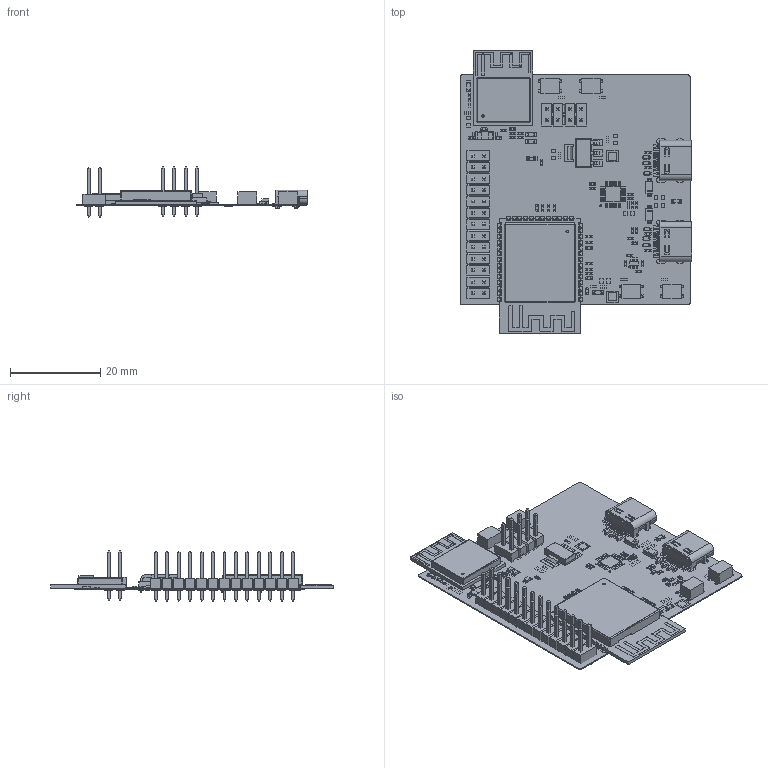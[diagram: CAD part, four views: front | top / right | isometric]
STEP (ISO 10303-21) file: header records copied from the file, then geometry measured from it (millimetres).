
FILE_DESCRIPTION (( 'STEP AP214' ), '1' );
FILE_NAME ('ESP-Thread BR&Zigbee GW_V1-202404.STEP', '2024-04-22T12:02:46', ( 'Windows User' ), ( 'P R C' ), 'SwSTEP 2.0', 'SolidWorks 2022', '' );
FILE_SCHEMA (( 'AUTOMOTIVE_DESIGN' ));
Length unit declared in the file: millimetre
Products named in the file (47): Submodel-D__3D_design_ESP32-H2_module_module_ESP-Thread-BR-GW-3D_PCB_ESP-Thread BR&Zigbee GW_V1.2_20230404_PCB_3D_ImportedPartModels_button-NTC013-AT1J-A160T.stp_1; Submodel-SW4-4P2X3P2X2P5-SMT_part_SW4-4P2X3P2X2P5-SMT_1; SOD523.xtd_1; Submodel-QFN28_0P5_5_4157356622_part_QFN28_0P5_5_1; Submodel-noModelForPart_SOT363_1359806921_1; placementOutline_23_1; LED.xtd_1; ESP32-H2-MINI-1_20230630; Submodel-D__3D_design_ESP32-H2_module_module_ESP-Thread-BR-GW-3D_PCB_ESP-Thread BR&Zigbee GW_V1.2_20230404_PCB_3D_ImportedPartModels_TYPE-C-1054500101.STEP_1; TYPE-C-1054500101.xtd_1; Submodel-D__3D_design_ESP32-H2_module_module_ESP-Thread-BR-GW-3D_PCB_ESP-Thread BR&Zigbee GW_V1.2_20230404_PCB_3D_ImportedPartModels_SOD523.step_1; Submodel-D__3D_design_ESP32-H2_module_module_ESP-Thread-BR-GW-3D_PCB_ESP-Thread BR&Zigbee GW_V1.2_20230404_PCB_3D_ImportedPartModels_SOT223.stp_1; R0402_20210301.xtd_1; Submodel-D__3D_design_ESP32-H2_module_module_ESP-Thread-BR-GW-3D_PCB_ESP-Thread BR&Zigbee GW_V1.2_20230404_PCB_3D_ImportedPartModels_R0402_20210301.STEP_1; HTSW-113-07-G-D; uid__2362_1; R0603_20210301.xtd_1; Submodel-noModelForPart_XTAL3215_1395374392_1; placementOutline_21_1; Submodel-noModelForPart_SIP1_1428151399_1; placementOutline_22_1; Submodel-D__3D_design_ESP32-H2_module_module_ESP-Thread-BR-GW-3D_PCB_ESP-Thread BR&Zigbee GW_V1.2_20230404_PCB_3D_ImportedPartModels_ESP32-S3-WROOM-1 3D Model.STEP_1; placementOutline_19_1; TSW-104-07-G-D; Submodel-ESP32-S3-WROOM-1_part_ESP32-S3-WROOM-1_1; Imported_1; placementOutline_17_1; Submodel-R0402_part_R0402_1; button-NTC013-AT1J-A160T.xtd_1; Submodel-SOT363_1359806921_part_SOT363_1; Submodel-SOT223_part_SOT223_1; SOT223.xtd_1; Submodel-noModelForPart_QFN28_0P5_5_4157356622_1; Submodel-SIP1_1428151399_part_SIP1_1; Submodel-LED0603_part_LED0603_1; ESP-Thread BR&Zigbee GW_V1-202404; Submodel-SOD523_part_SOD523_1; Submodel-SOD123_part_SOD123_1; SOD-123_J.xtd_1; Submodel-D__3D_design_ESP32-H2_module_module_ESP-Thread-BR-GW-3D_PCB_ESP-Thread BR&Zigbee GW_V1.2_20230404_PCB_3D_ImportedPartModels_R0603_20210301.STEP_1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
Assembly tree (101 placements, depth 5):
  ESP-Thread BR&Zigbee GW_V1-202404
    DesignRootModel_1
      uid__2362_1
      Submodel-QFN28_0P5_5_4157356622_part_QFN28_0P5_5_1
        Submodel-noModelForPart_QFN28_0P5_5_4157356622_1
          placementOutline_17_1
      Submodel-SW4-4P2X3P2X2P5-SMT_part_SW4-4P2X3P2X2P5-SMT_1  x4
        Submodel-D__3D_design_ESP32-H2_module_module_ESP-Thread-BR-GW-3D_PCB_ESP-Thread BR&Zigbee GW_V1.2_20230404_PCB_3D_ImportedPartModels_button-NTC013-AT1J-A160T.stp_1
          button-NTC013-AT1J-A160T.xtd_1
      Submodel-SIP1_1428151399_part_SIP1_1  x2
        Submodel-noModelForPart_SIP1_1428151399_1
          placementOutline_19_1
      Submodel-R0402_part_R0402_1  x41
        Submodel-D__3D_design_ESP32-H2_module_module_ESP-Thread-BR-GW-3D_PCB_ESP-Thread BR&Zigbee GW_V1.2_20230404_PCB_3D_ImportedPartModels_R0402_20210301.STEP_1
          R0402_20210301.xtd_1
      Submodel-R0603_part_R0603_1  x3
        Submodel-D__3D_design_ESP32-H2_module_module_ESP-Thread-BR-GW-3D_PCB_ESP-Thread BR&Zigbee GW_V1.2_20230404_PCB_3D_ImportedPartModels_R0603_20210301.STEP_1
          R0603_20210301.xtd_1
      Submodel-SOT363_1359806921_part_SOT363_1
        Submodel-noModelForPart_SOT363_1359806921_1
          placementOutline_21_1
          placementOutline_22_1
      Submodel-USB_TYPEC_16P_F_part_USB_TYPEC_16P_F_1  x2
        Submodel-D__3D_design_ESP32-H2_module_module_ESP-Thread-BR-GW-3D_PCB_ESP-Thread BR&Zigbee GW_V1.2_20230404_PCB_3D_ImportedPartModels_TYPE-C-1054500101.STEP_1
          TYPE-C-1054500101.xtd_1
      Submodel-SOD523_part_SOD523_1  x6
        Submodel-D__3D_design_ESP32-H2_module_module_ESP-Thread-BR-GW-3D_PCB_ESP-Thread BR&Zigbee GW_V1.2_20230404_PCB_3D_ImportedPartModels_SOD523.step_1
          SOD523.xtd_1
      Submodel-ESP32-S3-WROOM-1_part_ESP32-S3-WROOM-1_1
        Submodel-D__3D_design_ESP32-H2_module_module_ESP-Thread-BR-GW-3D_PCB_ESP-Thread BR&Zigbee GW_V1.2_20230404_PCB_3D_ImportedPartModels_ESP32-S3-WROOM-1 3D Model.STEP_1
          ESP32-S3-WROOM-1 3D Model.xtd_1
      Submodel-LED0603_part_LED0603_1  x3
        Submodel-D__3D_design_ESP32-H2_module_module_ESP-Thread-BR-GW-3D_PCB_ESP-Thread BR&Zigbee GW_V1.2_20230404_PCB_3D_ImportedPartModels_LED.STEP_1
          LED.xtd_1
      Submodel-SOD123_part_SOD123_1  x2
        Submodel-D__3D_design_ESP32-H2_module_module_ESP-Thread-BR-GW-3D_PCB_ESP-Thread BR&Zigbee GW_V1.2_20230404_PCB_3D_ImportedPartModels_SOD-123_J.stp_1
          SOD-123_J.xtd_1
      Submodel-XTAL3215_1395374392_part_XTAL3215_1
        Submodel-noModelForPart_XTAL3215_1395374392_1
          placementOutline_23_1
      Submodel-SOT223_part_SOT223_1
        Submodel-D__3D_design_ESP32-H2_module_module_ESP-Thread-BR-GW-3D_PCB_ESP-Thread BR&Zigbee GW_V1.2_20230404_PCB_3D_ImportedPartModels_SOT223.stp_1
          SOT223.xtd_1
    Imported_1
    ESP32-H2-MINI-1_20230630
    HTSW-113-07-G-D
    TSW-104-07-G-D
Bounding box: 51.41 x 62.64 x 11.15 mm (x, y, z)
Volume: 2498.8 mm3; surface area: 12964.2 mm2
Topology: 996 solids, 998 shells, 11316 faces, 26733 edges, 17558 vertices
Faces by surface type: plane 9455, cylinder 1723, bspline 87, torus 28, sphere 15, cone 8
Entity records: 372395 total; most frequent: CARTESIAN_POINT 52831, ORIENTED_EDGE 42494, DIRECTION 41686, EDGE_CURVE 21247, VECTOR 17708, LINE 17708, VERTEX_POINT 13934, AXIS2_PLACEMENT_3D 11989
